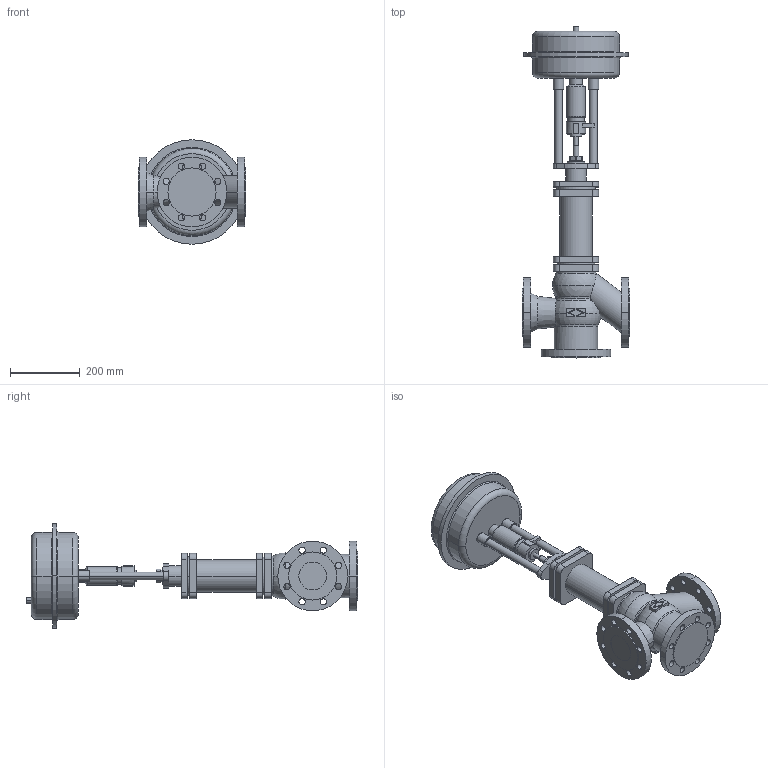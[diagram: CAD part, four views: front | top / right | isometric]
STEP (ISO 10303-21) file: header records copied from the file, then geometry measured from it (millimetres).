
FILE_DESCRIPTION(('OneSpaceDesigner STEP Export'),'2;1');
FILE_NAME('c000000734.stp','2006-09-21T 8:38:38',(''),(''),'OneSpace Designer STEP processor for AP214 (Solid Model)','OneSpace Designer 13.20A 18-Aug-2005 (C) CoCreate Software GmbH','');
FILE_SCHEMA(('AUTOMOTIVE_DESIGN { 1 0 10303 214 1 1 1 1 }'));
Length unit declared in the file: millimetre
Products named in the file (2): 1; 2
Bounding box: 310 x 953.3 x 300 mm (x, y, z)
Volume: 16117522.5 mm3; surface area: 839708 mm2
Topology: 2 solids, 2 shells, 277 faces, 701 edges, 458 vertices
Faces by surface type: cylinder 138, plane 101, torus 26, cone 8, sphere 4
Entity records: 7668 total; most frequent: CARTESIAN_POINT 1489, ORIENTED_EDGE 1394, DIRECTION 1130, EDGE_CURVE 697, VERTEX_POINT 458, AXIS2_PLACEMENT_3D 412, EDGE_LOOP 359, VECTOR 306
